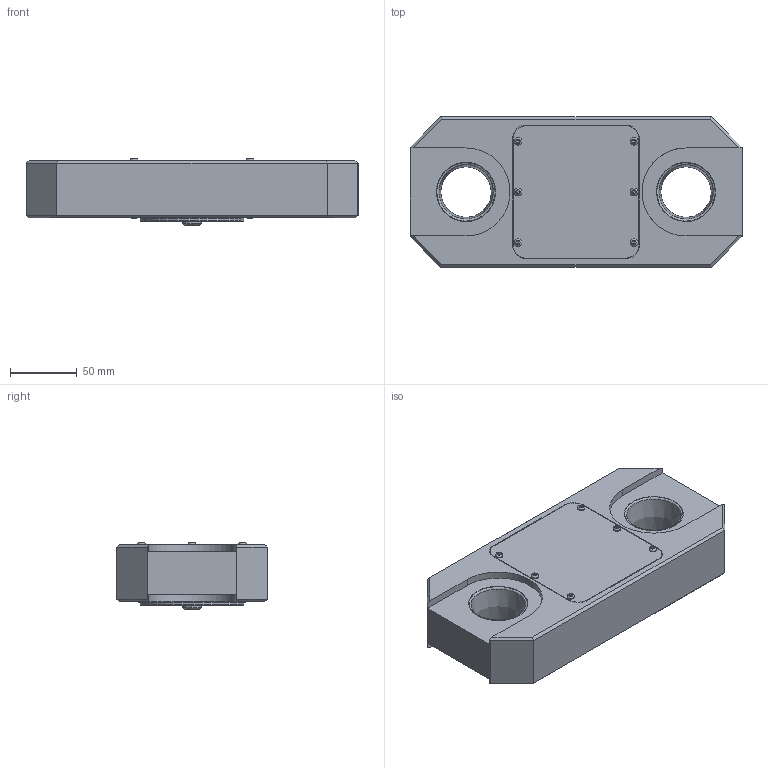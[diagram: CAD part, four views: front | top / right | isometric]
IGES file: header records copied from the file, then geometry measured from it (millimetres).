
Global section: file name: RLP6T5; native system: Autodesk Inventor 2016; preprocessor: unknown; author: rdivakaran; date: 20180811.120041; units: millimetre
Bounding box: 249 x 113 x 50.32 mm (x, y, z)
Volume: 820132.8 mm3; surface area: 251130.3 mm2
Topology: 67 solids, 67 shells, 3969 faces, 10233 edges, 6670 vertices
Faces by surface type: bspline 3969
